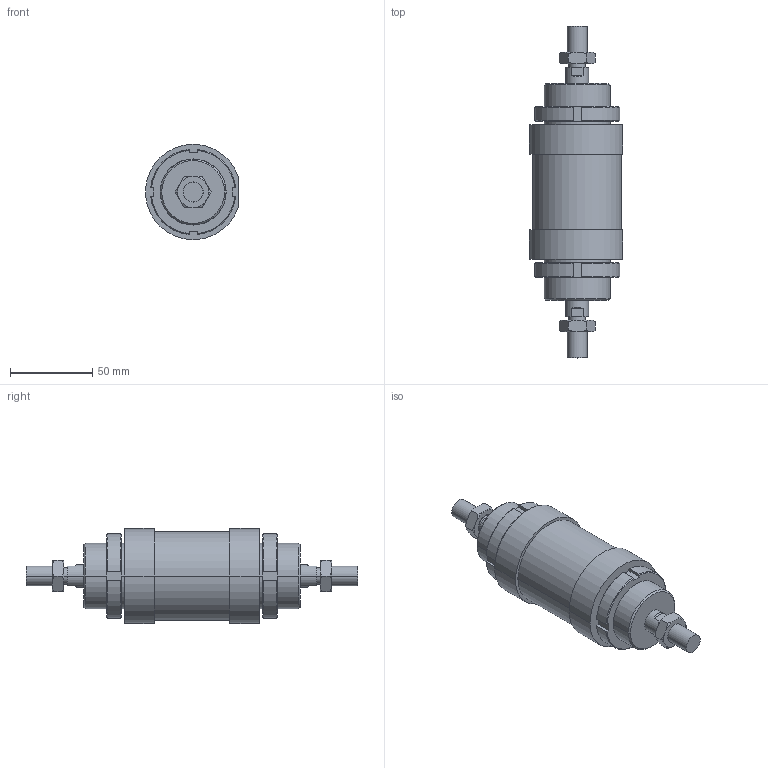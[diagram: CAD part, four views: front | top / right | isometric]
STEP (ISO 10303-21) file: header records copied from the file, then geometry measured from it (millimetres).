
FILE_DESCRIPTION((''),'2;1');
FILE_NAME('I:\DOC-EDP\Lib-3d\1200\CILINDRI\1262\1262_50_0000.stp','2003-04-02T19:14:43',('maffial1'),(''),'Autodesk Inventor (R) 6.0','Autodesk Inventor (R) 6.0','');
FILE_SCHEMA(('AUTOMOTIVE_DESIGN { 1 0 10303 214 1 1 1 1 }'));
Length unit declared in the file: millimetre
Products named in the file (5): 1262_50_0000; S1262_50_0; C1262_50_0; 1200_50_05; 1200_50_06
Assembly tree (6 placements, depth 2):
  1262_50_0000
    S1262_50_0
    C1262_50_0
    1200_50_05  x2
    1200_50_06  x2
Bounding box: 56.6 x 202 x 57.85 mm (x, y, z)
Volume: 287621.2 mm3; surface area: 52582.1 mm2
Topology: 6 solids, 6 shells, 182 faces, 424 edges, 264 vertices
Faces by surface type: plane 66, cone 56, cylinder 30, bspline 30
Entity records: 3737 total; most frequent: CARTESIAN_POINT 969, DIRECTION 572, ORIENTED_EDGE 548, EDGE_CURVE 274, AXIS2_PLACEMENT_3D 227, VERTEX_POINT 172, EDGE_LOOP 136, FACE_OUTER_BOUND 120
